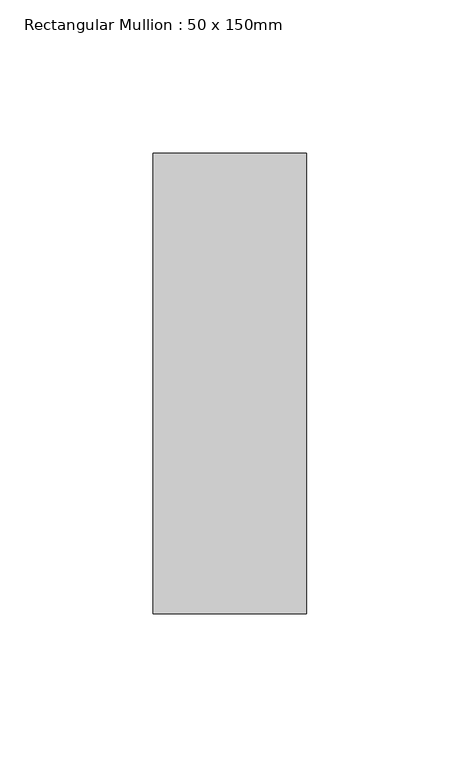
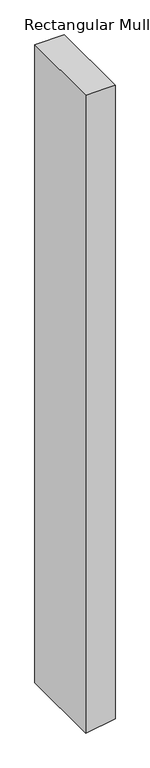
"""IFC4 building model written with IfcOpenShell, lengths in millimetres: member geometry, Rectangular Mullion : 50 x 150mm."""

from ifc_helpers import new_model, si_unit, frame, origin, place, context, project, spatial, polyline, outline, extrude, source, transform, mapped, element, save


def rectangular_mullion_50_x_150mm_75681927(model_context):
    return source(origin(), model_context, "Body", "SweptSolid", [
        extrude(outline(polyline([(0.0, 0.0), (0.0, -50.0), (-1149.8247066, -50.0), (-1141.1484733, 0.0), (0.0, 0.0)])), frame((0.0, -75.0, 0.0), z_axis=(0.0, 1.0, 0.0), x_axis=(0.0, 0.0, 1.0)), (0.0, 0.0, 1.0), 150.0),
    ])


if __name__ == "__main__":
    model = new_model("IFC4")
    model_context = context("Model", 3, world=origin())
    ifc_project = project(units=[si_unit("LENGTHUNIT", "METRE", prefix="MILLI")], contexts=[model_context])
    site = spatial("IfcSite", under=ifc_project)
    building = spatial("IfcBuilding", under=site)
    placement = place(None, origin())
    rectangular_mullion_50_x_150mm_shape = rectangular_mullion_50_x_150mm_75681927(model_context)
    element("IfcMember", 1, ObjectType="Rectangular Mullion : 50 x 150mm", at=placement, inside=building, context=model_context, shape_type="MappedRepresentation", body=[
        mapped(rectangular_mullion_50_x_150mm_shape, transform((0.0, 0.0, 0.0), x_axis=(1.0, 0.0, 0.0), y_axis=(0.0, 1.0, 0.0), z_axis=(0.0, 0.0, 1.0))),
    ])
    save(model, "model.ifc")
